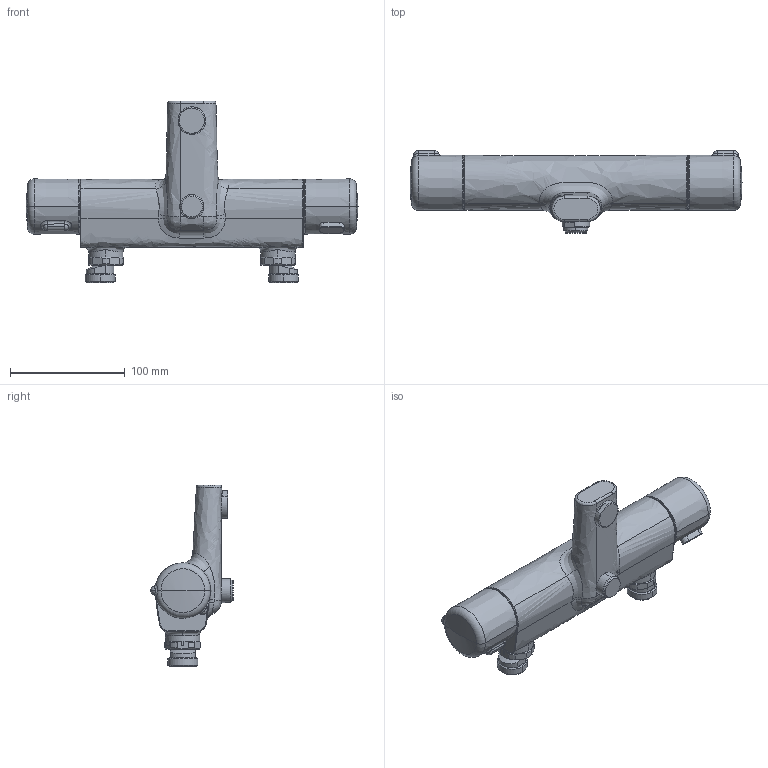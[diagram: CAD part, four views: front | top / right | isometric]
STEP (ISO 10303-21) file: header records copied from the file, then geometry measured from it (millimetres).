
FILE_DESCRIPTION (( 'STEP AP203' ), '1' );
FILE_NAME ('7443-33(2022).STEP', '2022-03-04T08:42:22', ( '' ), ( '' ), 'SwSTEP 2.0', 'SolidWorks 2016', '' );
FILE_SCHEMA (( 'CONFIG_CONTROL_DESIGN' ));
Length unit declared in the file: millimetre
Products named in the file (1): 7443-33(2022)
Bounding box: 289.57 x 72 x 158.61 mm (x, y, z)
Volume: 775235.2 mm3; surface area: 70992.4 mm2
Topology: 1 solids, 1 shells, 215 faces, 553 edges, 347 vertices
Faces by surface type: cylinder 53, bspline 50, plane 46, cone 42, sphere 14, torus 10
Entity records: 14798 total; most frequent: CARTESIAN_POINT 9963, ORIENTED_EDGE 1098, DIRECTION 871, EDGE_CURVE 549, AXIS2_PLACEMENT_3D 368, VERTEX_POINT 345, EDGE_LOOP 224, FACE_OUTER_BOUND 215
